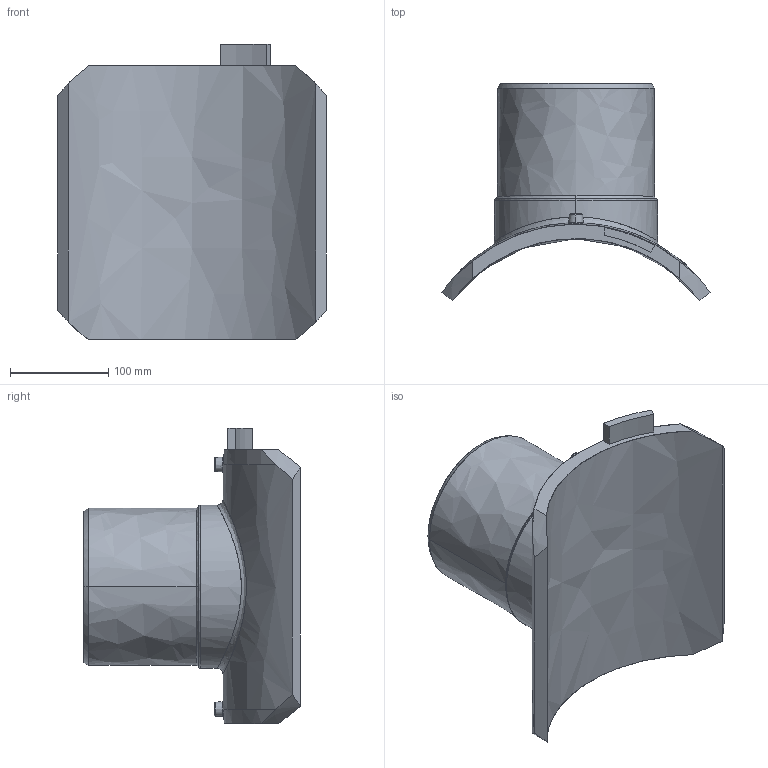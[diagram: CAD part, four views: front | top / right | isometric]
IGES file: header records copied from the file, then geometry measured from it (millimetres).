
Start section:  PTC IGES file: sa-uni_d315_160_01.igs
Global section: file name: sa-uni_d315_160_01.igs; native system: Pro/ENGINEER by Parametric Technology Corporation; preprocessor: 2011490; author: MikulicP; organization: Unknown; date: 20170203.133611; units: millimetre
Bounding box: 273.25 x 220.75 x 301 mm (x, y, z)
Surface area: 332144.6 mm2 (no closed solid volume)
Topology: 0 solids, 0 shells, 206 faces, 1018 edges, 1016 vertices
Faces by surface type: bspline 206
